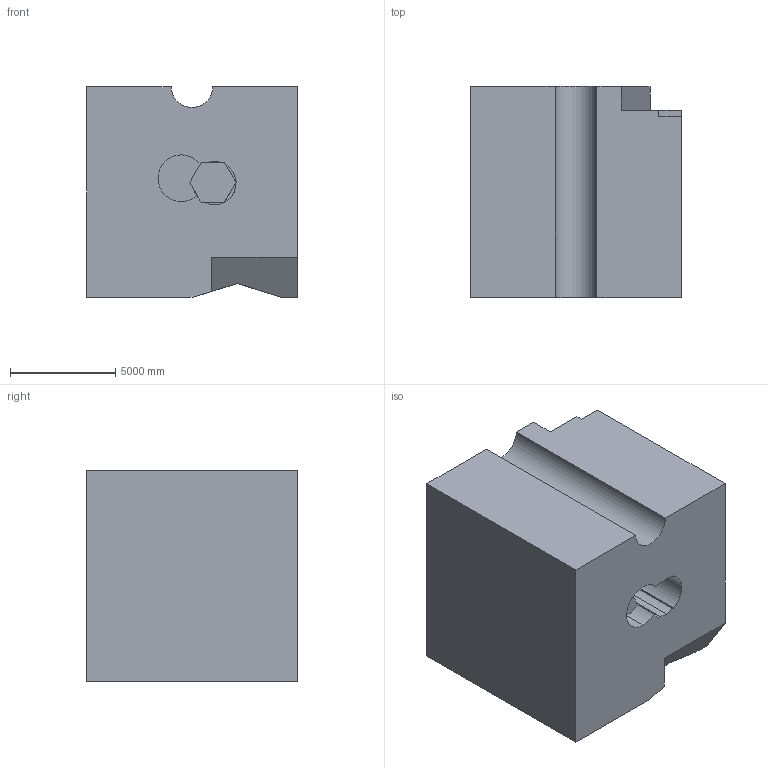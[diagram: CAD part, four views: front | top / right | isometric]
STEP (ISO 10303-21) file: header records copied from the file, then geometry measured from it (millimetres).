
FILE_DESCRIPTION (( 'STEP AP203' ), '1' );
FILE_NAME ('1840.STEP', '2022-08-19T13:25:13', ( 'user' ), ( '' ), 'SwSTEP 2.0', 'SolidWorks 2021', '' );
FILE_SCHEMA (( 'CONFIG_CONTROL_DESIGN' ));
Length unit declared in the file: centimetre
Products named in the file (1): 1840
Bounding box: 10000 x 10000 x 10000 mm (x, y, z)
Volume: 907371014186.9 mm3; surface area: 671038756.9 mm2
Topology: 1 solids, 1 shells, 45 faces, 118 edges, 78 vertices
Faces by surface type: plane 32, cylinder 13
Entity records: 1461 total; most frequent: CARTESIAN_POINT 242, DIRECTION 238, ORIENTED_EDGE 236, EDGE_CURVE 118, VECTOR 90, LINE 90, VERTEX_POINT 78, AXIS2_PLACEMENT_3D 74
